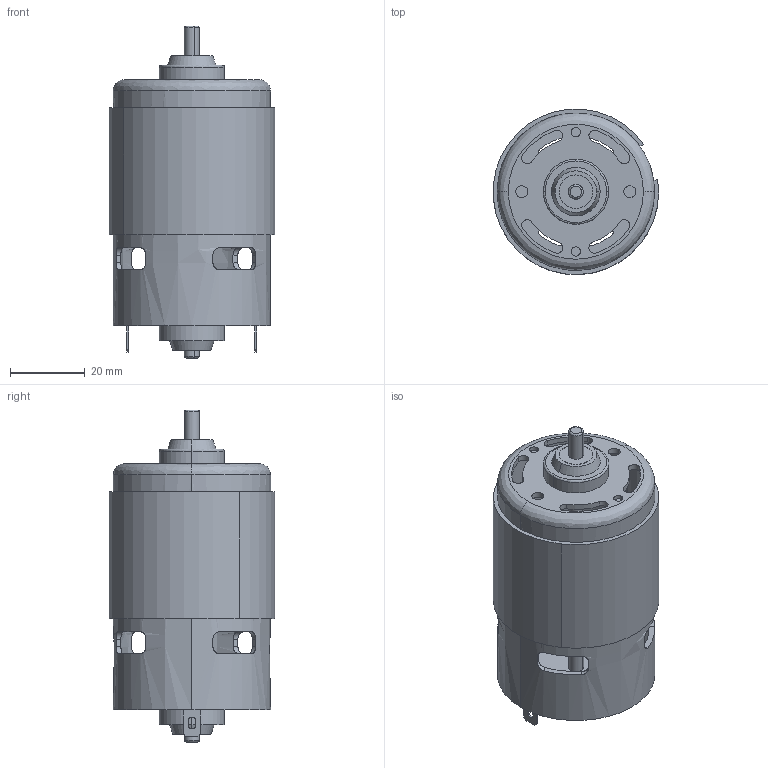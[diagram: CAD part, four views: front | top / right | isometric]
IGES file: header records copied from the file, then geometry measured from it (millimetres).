
Global section: file name: C:\Documents and Settings\Administrator\My Documents\My Webs\drawings\Iges\drillmotor.igs; native system: AutoDesk Inventor R2.0 ; preprocessor: AutoDesk Inventor Iges Exporter R2.0; author: No Author specified; organization: No Organization specified; date: 20011206.183459; units: inch
Bounding box: 44.32 x 44.3 x 89 mm (x, y, z)
Surface area: 32144.2 mm2 (no closed solid volume)
Topology: 0 solids, 0 shells, 236 faces, 1196 edges, 1188 vertices
Faces by surface type: revolution 122, bspline 114
